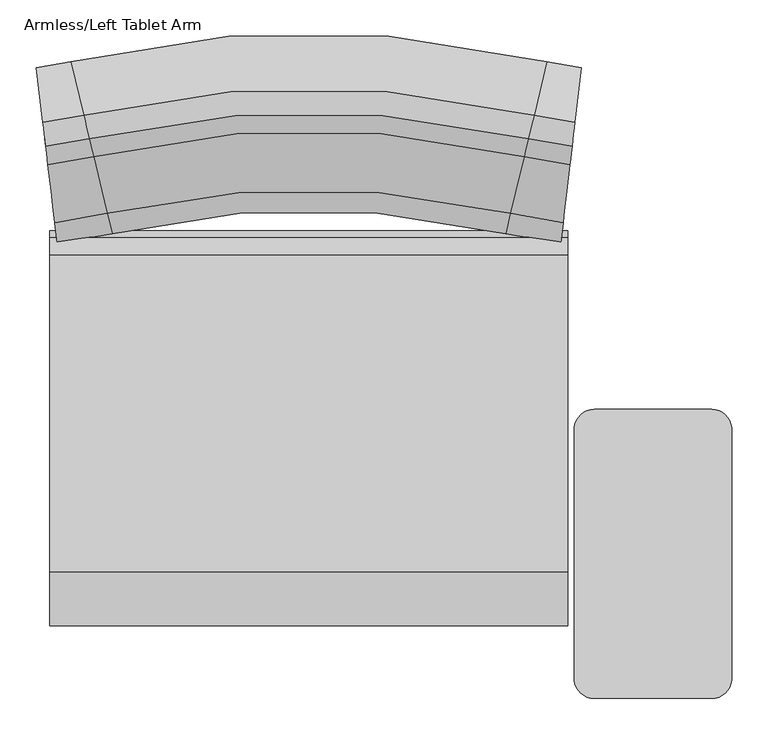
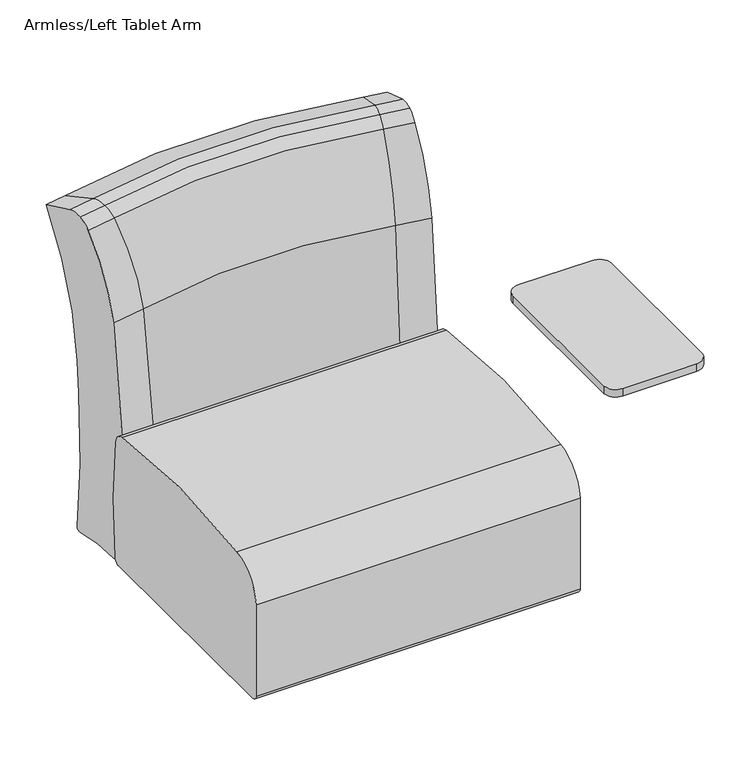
"""IFC4 building model written with IfcOpenShell, lengths in millimetres: furniture geometry, Steelcase Turnstone - Jenny - Seating - Lounge Chair : Armless/Left Tablet Arm."""

from ifc_helpers import new_model, si_unit, point, frame, frame_2d, origin, place, context, project, spatial, polyline, circle_curve, ellipse_curve, trimmed, segment, composite_curve, outline, extrude, source, transform, mapped, element, save
from ifc_brep_helpers import plane_surface, cylinder_surface, revolved_surface, advanced_brep


def armless_left_tablet_arm_3aba9abf(model_context):
    return source(origin(), model_context, "Body", "SolidModel", [
        advanced_brep(
        [(553.1970505, 297.2446472, 612.9965223), (391.8159646, 297.2446472, 612.9965223), (364.5623568, 271.9208046, 612.9965223), (364.5623568, -74.3072853, 612.9965223), (391.8159646, -99.6305466, 612.9965223), (553.1970505, -99.6305466, 612.9965223), (580.4506583, -74.3072853, 612.9965223), (580.4563138, 271.8444534, 612.9965223), (553.1970505, 297.2440659, 595.5042034), (580.4506583, 271.9208046, 595.5042034), (580.4506583, -74.3072853, 595.5042034), (553.1970505, -99.6305466, 595.5042034), (391.8159646, -99.6305466, 595.5042034), (364.5623568, -74.3072853, 595.5042034), (364.5567014, 271.8444534, 595.5042034), (391.8159646, 297.2440659, 595.5042034)],
        [
            (0, 1),
            (1, 2, circle_curve(frame((391.8159646, 269.9168846, 612.9965223), z_axis=(0.0, 0.0, 1.0), x_axis=(0.0, 1.0, 0.0)), 27.3271812)),
            (2, 3, circle_curve(frame((2718.9429546, 98.8070503, 612.9965223), z_axis=(0.0, 0.0, 1.0), x_axis=(0.0, 1.0, 0.0)), 2360.736447)),
            (3, 4, circle_curve(frame((391.8159646, -72.3033653, 612.9965223), z_axis=(0.0, 0.0, 1.0), x_axis=(0.0, 1.0, 0.0)), 27.3271812)),
            (4, 5),
            (5, 6, circle_curve(frame((553.1970505, -72.3033653, 612.9965223), z_axis=(0.0, 0.0, 1.0), x_axis=(0.0, 1.0, 0.0)), 27.3271812)),
            (6, 7, circle_curve(frame((-1773.9299394, 98.8070503, 612.9965223), z_axis=(0.0, 0.0, 1.0), x_axis=(0.0, 1.0, 0.0)), 2360.736447)),
            (7, 0, circle_curve(frame((553.1970505, 269.9168846, 612.9965223), z_axis=(0.0, 0.0, 1.0), x_axis=(0.0, 1.0, 0.0)), 27.3271812)),
            (8, 9, circle_curve(frame((553.1970505, 269.9168846, 595.5042034), z_axis=(0.0, 0.0, -1.0), x_axis=(0.0, 1.0, 0.0)), 27.3271812)),
            (9, 10, circle_curve(frame((-1773.9299394, 98.8070503, 595.5042034), z_axis=(0.0, 0.0, -1.0), x_axis=(0.0, 1.0, 0.0)), 2360.736447)),
            (10, 11, circle_curve(frame((553.1970505, -72.3033653, 595.5042034), z_axis=(0.0, 0.0, -1.0), x_axis=(0.0, 1.0, 0.0)), 27.3271812)),
            (11, 12),
            (12, 13, circle_curve(frame((391.8159646, -72.3033653, 595.5042034), z_axis=(0.0, 0.0, -1.0), x_axis=(0.0, 1.0, 0.0)), 27.3271812)),
            (13, 14, circle_curve(frame((2718.9429546, 98.8070503, 595.5042034), z_axis=(0.0, 0.0, -1.0), x_axis=(0.0, 1.0, 0.0)), 2360.736447)),
            (14, 15, circle_curve(frame((391.8159646, 269.9168846, 595.5042034), z_axis=(0.0, 0.0, -1.0), x_axis=(0.0, 1.0, 0.0)), 27.3271812)),
            (15, 8),
            (0, 8),
            (15, 1),
            (14, 2),
            (13, 3),
            (12, 4),
            (11, 5),
            (10, 6),
            (9, 7),
        ],
        [
            plane_surface(frame((391.8159646, 297.2446472, 612.9965223), z_axis=(0.0, 0.0, 1.0), x_axis=(-1.0, 0.0, 0.0))),
            plane_surface(frame((391.8159646, 297.2446472, 595.5042034), z_axis=(0.0, 0.0, -1.0), x_axis=(1.0, 0.0, 0.0))),
            plane_surface(frame((553.1970505, 297.2446472, 612.9965223), z_axis=(0.0, 1.0, 0.0), x_axis=(0.0, 0.0, -1.0))),
            cylinder_surface(frame((391.8159646, 269.9168846, 595.5042034), z_axis=(0.0, 0.0, 1.0), x_axis=(0.0, 1.0, 0.0)), 27.3271812),
            cylinder_surface(frame((2718.9429546, 98.8070503, 595.5042034), z_axis=(0.0, 0.0, 1.0), x_axis=(0.0, 1.0, 0.0)), 2360.736447),
            cylinder_surface(frame((391.8159646, -72.3033653, 595.5042034), z_axis=(0.0, 0.0, 1.0), x_axis=(0.0, 1.0, 0.0)), 27.3271812),
            plane_surface(frame((391.8159646, -99.6305466, 612.9965223), z_axis=(0.0, -1.0, 0.0), x_axis=(0.0, 0.0, -1.0))),
            cylinder_surface(frame((553.1970505, -72.3033653, 595.5042034), z_axis=(0.0, 0.0, 1.0), x_axis=(0.0, 1.0, 0.0)), 27.3271812),
            cylinder_surface(frame((-1773.9299394, 98.8070503, 595.5042034), z_axis=(0.0, 0.0, 1.0), x_axis=(0.0, 1.0, 0.0)), 2360.736447),
            cylinder_surface(frame((553.1970505, 269.9168846, 595.5042034), z_axis=(0.0, 0.0, 1.0), x_axis=(0.0, 1.0, 0.0)), 27.3271812),
        ],
        [
            (0, [[1, 2, 3, 4, 5, 6, 7, 8]]),
            (1, [[9, 10, 11, 12, 13, 14, 15, 16]]),
            (2, [[-1, 17, -16, 18]]),
            (3, [[-2, -18, -15, 19]]),
            (4, [[-3, -19, -14, 20]]),
            (5, [[-4, -20, -13, 21]]),
            (6, [[-5, -21, -12, 22]]),
            (7, [[-6, -22, -11, 23]]),
            (8, [[-7, -23, -10, 24]]),
            (9, [[-8, -24, -9, -17]]),
        ],
    ),
        extrude(outline(polyline([(373.0702751, 106.7260437), (373.0702751, 233.7264313), (486.5044904, 233.7264313), (486.5044904, 106.7260437), (373.0702751, 106.7260437)])), frame((0.0, 0.0, 592.311266), z_axis=(0.0, 0.0, 1.0), x_axis=(1.0, 0.0, 0.0)), (0.0, 0.0, 1.0), 3.1929374),
        extrude(outline(composite_curve([segment(trimmed(circle_curve(frame_2d((295.9448235, -1001.9734672)), 1409.8455938), [point((73.6948235, 390.2440215))], [point((509.3958902, 391.6201753))], False, "CARTESIAN"), True, "CONTINUOUS"), segment(trimmed(circle_curve(frame_2d((504.9855283, 362.825509)), 29.1304669), [point((509.3958902, 391.6201753))], [point((533.8942756, 366.4127691))], False, "CARTESIAN"), True, "CONTINUOUS"), segment(trimmed(circle_curve(frame_2d((-629.8512072, 222.0046519)), 1172.6709909), [point((533.8942756, 366.4127691))], [point((536.0042378, 95.7575362))], False, "CARTESIAN"), True, "CONTINUOUS"), segment(trimmed(circle_curve(frame_2d((523.173628, 97.1469259)), 12.9056171), [point((536.0042378, 95.7575362))], [point((523.4804674, 84.244957))], False, "CARTESIAN"), True, "CONTINUOUS"), segment(trimmed(circle_curve(frame_2d((320.8347088, 8605.0850806)), 8523.249481), [point((523.4804674, 84.244957))], [point((12.6556229, 87.4089088))], False, "CARTESIAN"), True, "CONTINUOUS"), segment(trimmed(circle_curve(frame_2d((13.132469, 100.5883266)), 13.1880413), [point((12.6556229, 87.4089088))], [point((0.0, 99.3789084))], False, "CARTESIAN"), True, "CONTINUOUS"), segment(trimmed(circle_curve(frame_2d((1151.5533041, 205.4297595)), 1156.4263034), [point((0.0, 99.3789084))], [point((0.0, 311.4806107))], False, "CARTESIAN"), True, "CONTINUOUS"), segment(trimmed(circle_curve(frame_2d((87.555619, 303.4172862)), 87.9261259), [point((0.0, 311.4806107))], [point((73.6948235, 390.2440215))], False, "CARTESIAN"), True, "CONTINUOUS")], self_intersect=False)), frame((-355.6, 0.0, 0.0), z_axis=(1.0, 0.0, 0.0), x_axis=(0.0, 1.0, 0.0)), (0.0, 0.0, 1.0), 711.2),
        advanced_brep(
        [(-365.286616, 691.4565759, 813.9027777), (-374.1581434, 766.5452606, 782.2939395), (-362.648411, 669.1267858, 474.5451921), (-361.9534589, 663.244705, 404.1661408), (-361.3770167, 658.3656933, 241.4197302), (-362.6146384, 668.8409343, 92.210125), (-361.3954165, 658.5214293, 82.3084573), (-349.0009614, 553.6146536, 81.9987921), (-346.7002803, 534.1416683, 97.0710008), (-349.0142051, 553.7267481, 627.8736036), (-358.4008193, 633.1751322, 797.7221008), (-361.3730638, 658.3322355, 814.4538477), (-326.9667617, 774.979302, 782.2939395), (-309.2801577, 701.4660474, 813.9027777), (-304.020535, 679.604757, 474.5451921), (-302.6350528, 673.8460877, 404.1661408), (-301.4858364, 669.0694421, 241.4197302), (-303.9532047, 679.3249029, 92.210125), (-301.5225189, 669.2219106, 82.3084573), (-276.8124763, 566.5161761, 81.9987921), (-272.2257535, 547.451752, 97.0710008), (-276.8388793, 566.6259188, 627.8736036), (-295.5523794, 644.4074023, 797.7221008), (-301.4779556, 669.0366863, 814.4538477), (326.9667617, 774.979302, 782.2939395), (309.2801577, 701.4660474, 813.9027777), (304.020535, 679.604757, 474.5451921), (302.6350528, 673.8460877, 404.1661408), (301.4858364, 669.0694421, 241.4197302), (303.9532047, 679.3249029, 92.210125), (301.5225189, 669.2219106, 82.3084573), (276.8124763, 566.5161761, 81.9987921), (272.2257535, 547.451752, 97.0710008), (276.8388793, 566.6259188, 627.8736036), (295.5523794, 644.4074023, 797.7221008), (301.4779556, 669.0366863, 814.4538477), (365.286616, 691.4565759, 813.9027777), (361.3730638, 658.3322355, 814.4538477), (358.4008193, 633.1751322, 797.7221008), (349.0142051, 553.7267481, 627.8736036), (346.7002803, 534.1416683, 97.0710008), (349.0009614, 553.6146536, 81.9987921), (361.3954165, 658.5214293, 82.3084573), (362.6146384, 668.8409343, 92.210125), (361.3770167, 658.3656933, 241.4197302), (361.9534589, 663.244705, 404.1661408), (362.648411, 669.1267858, 474.5451921), (374.1581434, 766.5452606, 782.2939395)],
        [
            (0, 1, circle_curve(frame((-341.1261096, 486.9618391, 215.0940543), z_axis=(-0.9930928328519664, -0.11733126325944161, 0.0), x_axis=(-0.11733126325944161, 0.9930928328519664, 0.0)), 633.2248531)),
            (1, 2, circle_curve(frame((-441.9489126, 1340.3269208, 428.618251), z_axis=(0.9930928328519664, 0.11733126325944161, 0.0), x_axis=(-0.11733126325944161, 0.9930928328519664, 0.0)), 677.4270991)),
            (2, 3, circle_curve(frame((-106.0716484, -1502.5411649, 623.1418041), z_axis=(-0.9930928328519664, -0.11733126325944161, 0.0), x_axis=(-0.11733126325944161, 0.9930928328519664, 0.0)), 2191.8152925)),
            (3, 4, circle_curve(frame((-498.0432857, 1815.1101831, 287.7047166), z_axis=(0.9930928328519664, 0.11733126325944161, 0.0), x_axis=(-0.11733126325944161, 0.9930928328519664, 0.0)), 1165.7091335)),
            (4, 5, circle_curve(frame((-645.5581159, 3063.6769889, 337.6638027), z_axis=(0.9930928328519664, 0.11733126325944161, 0.0), x_axis=(-0.11733126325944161, 0.9930928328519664, 0.0)), 2423.9521958)),
            (5, 6, circle_curve(frame((-361.5543466, 659.8666153, 91.290321), z_axis=(-0.9930928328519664, -0.11733126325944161, 0.0), x_axis=(-0.11733126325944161, 0.9930928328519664, 0.0)), 9.0834278)),
            (6, 7, circle_curve(frame((-355.3163018, 607.0677497, -261.2499371), z_axis=(0.9930928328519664, 0.11733126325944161, 0.0), x_axis=(-0.11733126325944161, 0.9930928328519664, 0.0)), 347.443243)),
            (7, 8, circle_curve(frame((-348.6908883, 550.9901919, 98.8517567), z_axis=(-0.9930928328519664, -0.11733126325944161, 0.0), x_axis=(-0.11733126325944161, 0.9930928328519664, 0.0)), 17.0589085)),
            (8, 9, circle_curve(frame((-566.1189152, 2391.3029031, 293.3582769), z_axis=(-0.9930928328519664, -0.11733126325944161, 0.0), x_axis=(-0.11733126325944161, 0.9930928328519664, 0.0)), 1880.3513194)),
            (9, 10, circle_curve(frame((-390.9633635, 908.7847898, 563.2382651), z_axis=(-0.9930928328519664, -0.11733126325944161, 0.0), x_axis=(-0.11733126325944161, 0.9930928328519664, 0.0)), 363.3230957)),
            (10, 11, circle_curve(frame((-363.2305214, 674.0537729, 762.9432742), z_axis=(-0.9930928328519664, -0.11733126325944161, 0.0), x_axis=(-0.11733126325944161, 0.9930928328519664, 0.0)), 53.8883667)),
            (11, 0, circle_curve(frame((-363.2305214, 674.0537729, 762.9432742), z_axis=(-0.9930928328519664, -0.11733126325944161, 0.0), x_axis=(-0.11733126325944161, 0.9930928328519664, 0.0)), 53.8883667)),
            (12, 1, circle_curve(frame((-421.6517332, 1168.5314176, 782.2939395), z_axis=(0.0, 0.0, -1.0), x_axis=(0.1173312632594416, -0.9930928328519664, 0.0)), 404.7820543)),
            (0, 13, circle_curve(frame((-421.6517332, 1168.5314176, 813.9027777), z_axis=(0.0, 0.0, 1.0), x_axis=(0.1173312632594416, -0.9930928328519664, 0.0)), 480.3929964)),
            (13, 12, circle_curve(frame((-261.1128813, 501.2617994, 215.0940543), z_axis=(-0.9722568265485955, -0.23391593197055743, 0.0), x_axis=(-0.23391593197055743, 0.9722568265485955, 0.0)), 633.2248531)),
            (14, 2, circle_curve(frame((-421.6517332, 1168.5314176, 474.5451921), z_axis=(0.0, 0.0, -1.0), x_axis=(0.1173312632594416, -0.9930928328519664, 0.0)), 502.8780948)),
            (12, 14, circle_curve(frame((-462.1169383, 1336.7224922, 428.618251), z_axis=(0.9722568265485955, 0.23391593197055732, 0.0), x_axis=(-0.23391593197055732, 0.9722568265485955, 0.0)), 677.4270991)),
            (15, 3, circle_curve(frame((-421.6517332, 1168.5314176, 404.1661408), z_axis=(0.0, 0.0, -1.0), x_axis=(0.1173312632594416, -0.9930928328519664, 0.0)), 508.8010867)),
            (14, 15, circle_curve(frame((207.500358, -1446.4995912, 623.1418041), z_axis=(-0.9722568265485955, -0.2339159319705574, 0.0), x_axis=(-0.2339159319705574, 0.9722568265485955, 0.0)), 2191.8152925)),
            (16, 4, circle_curve(frame((-421.6517332, 1168.5314176, 241.4197302), z_axis=(0.0, 0.0, -1.0), x_axis=(0.1173312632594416, -0.9930928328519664, 0.0)), 513.714033)),
            (15, 16, circle_curve(frame((-573.9487486, 1801.5443625, 287.7047166), z_axis=(0.9722568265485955, 0.23391593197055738, 0.0), x_axis=(-0.23391593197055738, 0.9722568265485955, 0.0)), 1165.7091335)),
            (17, 5, circle_curve(frame((-421.6517332, 1168.5314176, 92.210125), z_axis=(0.0, 0.0, -1.0), x_axis=(0.1173312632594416, -0.9930928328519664, 0.0)), 503.1659344)),
            (16, 17, circle_curve(frame((-868.0397524, 3023.9150817, 337.6638027), z_axis=(0.9722568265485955, 0.2339159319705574, 0.0), x_axis=(-0.2339159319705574, 0.9722568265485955, 0.0)), 2423.9521958)),
            (18, 6, circle_curve(frame((-421.6517332, 1168.5314176, 82.3084573), z_axis=(0.0, 0.0, -1.0), x_axis=(0.1173312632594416, -0.9930928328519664, 0.0)), 513.5572138)),
            (17, 18, circle_curve(frame((-301.8393678, 670.5388734, 91.290321), z_axis=(-0.9722568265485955, -0.23391593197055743, 0.0), x_axis=(-0.23391593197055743, 0.9722568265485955, 0.0)), 9.0834278)),
            (19, 7, circle_curve(frame((-421.6517332, 1168.5314176, 81.9987921), z_axis=(0.0, 0.0, -1.0), x_axis=(0.1173312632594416, -0.9930928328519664, 0.0)), 619.193638)),
            (18, 19, circle_curve(frame((-289.4029717, 618.8477768, -261.2499371), z_axis=(0.9722568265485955, 0.2339159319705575, 0.0), x_axis=(-0.2339159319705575, 0.9722568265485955, 0.0)), 347.443243)),
            (20, 8, circle_curve(frame((-421.6517332, 1168.5314176, 97.0710008), z_axis=(0.0, 0.0, -1.0), x_axis=(0.1173312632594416, -0.9930928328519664, 0.0)), 638.8020619)),
            (19, 20, circle_curve(frame((-276.194303, 563.9467781, 98.8517567), z_axis=(-0.9722568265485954, -0.23391593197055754, 0.0), x_axis=(-0.23391593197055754, 0.9722568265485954, 0.0)), 17.0589085)),
            (21, 9, circle_curve(frame((-421.6517332, 1168.5314176, 627.8736036), z_axis=(0.0, 0.0, -1.0), x_axis=(0.1173312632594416, -0.9930928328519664, 0.0)), 619.0807637)),
            (20, 21, circle_curve(frame((-709.6668332, 2365.6480262, 293.3582769), z_axis=(-0.9722568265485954, -0.23391593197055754, 0.0), x_axis=(-0.23391593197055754, 0.9722568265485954, 0.0)), 1880.3513194)),
            (22, 10, circle_curve(frame((-421.6517332, 1168.5314176, 797.7221008), z_axis=(0.0, 0.0, -1.0), x_axis=(0.1173312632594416, -0.9930928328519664, 0.0)), 539.0797997)),
            (21, 22, circle_curve(frame((-360.4702681, 914.2345144, 563.2382651), z_axis=(-0.9722568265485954, -0.23391593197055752, 0.0), x_axis=(-0.23391593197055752, 0.9722568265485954, 0.0)), 363.3230957)),
            (23, 11, circle_curve(frame((-421.6517332, 1168.5314176, 814.4538477), z_axis=(0.0, 0.0, -1.0), x_axis=(0.1173312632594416, -0.9930928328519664, 0.0)), 513.7477235)),
            (22, 23, circle_curve(frame((-305.1810516, 684.4283713, 762.9432742), z_axis=(-0.9722568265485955, -0.2339159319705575, 0.0), x_axis=(-0.2339159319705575, 0.9722568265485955, 0.0)), 53.8883667)),
            (23, 13, circle_curve(frame((-305.1810516, 684.4283713, 762.9432742), z_axis=(-0.9722568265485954, -0.23391593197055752, 0.0), x_axis=(-0.23391593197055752, 0.9722568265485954, 0.0)), 53.8883667)),
            (24, 12, circle_curve(frame((0.0, -584.0374329, 782.2939395), z_axis=(0.0, 0.0, 1.0), x_axis=(-0.23391593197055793, 0.9722568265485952, 0.0)), 1397.7960327)),
            (13, 25, circle_curve(frame((0.0, -584.0374329, 813.9027777), z_axis=(0.0, 0.0, -1.0), x_axis=(-0.23391593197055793, 0.9722568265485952, 0.0)), 1322.1850906)),
            (25, 24, circle_curve(frame((261.1128813, 501.2617994, 215.0940543), z_axis=(-0.9722568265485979, 0.23391593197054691, 0.0), x_axis=(0.23391593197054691, 0.9722568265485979, 0.0)), 633.2248531)),
            (26, 14, circle_curve(frame((0.0, -584.0374329, 474.5451921), z_axis=(0.0, 0.0, 1.0), x_axis=(-0.23391593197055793, 0.9722568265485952, 0.0)), 1299.6999922)),
            (24, 26, circle_curve(frame((462.1169383, 1336.7224922, 428.618251), z_axis=(0.9722568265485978, -0.23391593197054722, 0.0), x_axis=(0.23391593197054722, 0.9722568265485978, 0.0)), 677.4270991)),
            (27, 15, circle_curve(frame((0.0, -584.0374329, 404.1661408), z_axis=(0.0, 0.0, 1.0), x_axis=(-0.23391593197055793, 0.9722568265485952, 0.0)), 1293.7770003)),
            (26, 27, circle_curve(frame((-207.500358, -1446.4995912, 623.1418041), z_axis=(-0.9722568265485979, 0.23391593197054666, 0.0), x_axis=(0.23391593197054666, 0.9722568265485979, 0.0)), 2191.8152925)),
            (28, 16, circle_curve(frame((0.0, -584.0374329, 241.4197302), z_axis=(0.0, 0.0, 1.0), x_axis=(-0.23391593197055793, 0.9722568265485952, 0.0)), 1288.864054)),
            (27, 28, circle_curve(frame((573.9487486, 1801.5443625, 287.7047166), z_axis=(0.9722568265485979, -0.23391593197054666, 0.0), x_axis=(0.23391593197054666, 0.9722568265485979, 0.0)), 1165.7091335)),
            (29, 17, circle_curve(frame((0.0, -584.0374329, 92.210125), z_axis=(0.0, 0.0, 1.0), x_axis=(-0.23391593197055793, 0.9722568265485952, 0.0)), 1299.4121525)),
            (28, 29, circle_curve(frame((868.0397524, 3023.9150817, 337.6638027), z_axis=(0.9722568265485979, -0.23391593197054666, 0.0), x_axis=(0.23391593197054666, 0.9722568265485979, 0.0)), 2423.9521958)),
            (30, 18, circle_curve(frame((0.0, -584.0374329, 82.3084573), z_axis=(0.0, 0.0, 1.0), x_axis=(-0.23391593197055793, 0.9722568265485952, 0.0)), 1289.0208732)),
            (29, 30, circle_curve(frame((301.8393678, 670.5388734, 91.290321), z_axis=(-0.9722568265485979, 0.23391593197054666, 0.0), x_axis=(0.23391593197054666, 0.9722568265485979, 0.0)), 9.0834278)),
            (31, 19, circle_curve(frame((0.0, -584.0374329, 81.9987921), z_axis=(0.0, 0.0, 1.0), x_axis=(-0.23391593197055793, 0.9722568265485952, 0.0)), 1183.384449)),
            (30, 31, circle_curve(frame((289.4029717, 618.8477768, -261.2499371), z_axis=(0.9722568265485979, -0.23391593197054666, 0.0), x_axis=(0.23391593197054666, 0.9722568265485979, 0.0)), 347.443243)),
            (32, 20, circle_curve(frame((0.0, -584.0374329, 97.0710008), z_axis=(0.0, 0.0, 1.0), x_axis=(-0.23391593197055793, 0.9722568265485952, 0.0)), 1163.776025)),
            (31, 32, circle_curve(frame((276.194303, 563.9467781, 98.8517567), z_axis=(-0.9722568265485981, 0.23391593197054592, 0.0), x_axis=(0.23391593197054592, 0.9722568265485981, 0.0)), 17.0589085)),
            (33, 21, circle_curve(frame((0.0, -584.0374329, 627.8736036), z_axis=(0.0, 0.0, 1.0), x_axis=(-0.23391593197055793, 0.9722568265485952, 0.0)), 1183.4973232)),
            (32, 33, circle_curve(frame((709.6668332, 2365.6480262, 293.3582769), z_axis=(-0.9722568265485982, 0.23391593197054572, 0.0), x_axis=(0.23391593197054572, 0.9722568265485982, 0.0)), 1880.3513194)),
            (34, 22, circle_curve(frame((0.0, -584.0374329, 797.7221008), z_axis=(0.0, 0.0, 1.0), x_axis=(-0.23391593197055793, 0.9722568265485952, 0.0)), 1263.4982873)),
            (33, 34, circle_curve(frame((360.4702681, 914.2345144, 563.2382651), z_axis=(-0.9722568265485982, 0.2339159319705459, 0.0), x_axis=(0.2339159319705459, 0.9722568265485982, 0.0)), 363.3230957)),
            (35, 23, circle_curve(frame((0.0, -584.0374329, 814.4538477), z_axis=(0.0, 0.0, 1.0), x_axis=(-0.23391593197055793, 0.9722568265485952, 0.0)), 1288.8303635)),
            (34, 35, circle_curve(frame((305.1810516, 684.4283713, 762.9432742), z_axis=(-0.972256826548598, 0.23391593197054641, 0.0), x_axis=(0.23391593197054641, 0.972256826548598, 0.0)), 53.8883667)),
            (35, 25, circle_curve(frame((305.1810516, 684.4283713, 762.9432742), z_axis=(-0.972256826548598, 0.23391593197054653, 0.0), x_axis=(0.23391593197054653, 0.972256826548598, 0.0)), 53.8883667)),
            (36, 37, circle_curve(frame((363.2305214, 674.0537729, 762.9432742), z_axis=(0.9930928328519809, -0.11733126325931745, 0.0), x_axis=(0.11733126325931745, 0.9930928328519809, 0.0)), 53.8883667)),
            (37, 38, circle_curve(frame((363.2305214, 674.0537729, 762.9432742), z_axis=(0.9930928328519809, -0.11733126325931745, 0.0), x_axis=(0.11733126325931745, 0.9930928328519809, 0.0)), 53.8883667)),
            (38, 39, circle_curve(frame((390.9633635, 908.7847898, 563.2382651), z_axis=(0.9930928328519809, -0.11733126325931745, 0.0), x_axis=(0.11733126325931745, 0.9930928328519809, 0.0)), 363.3230957)),
            (39, 40, circle_curve(frame((566.1189152, 2391.3029031, 293.3582769), z_axis=(0.9930928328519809, -0.11733126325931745, 0.0), x_axis=(0.11733126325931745, 0.9930928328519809, 0.0)), 1880.3513194)),
            (40, 41, circle_curve(frame((348.6908883, 550.9901919, 98.8517567), z_axis=(0.9930928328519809, -0.11733126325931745, 0.0), x_axis=(0.11733126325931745, 0.9930928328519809, 0.0)), 17.0589085)),
            (41, 42, circle_curve(frame((355.3163018, 607.0677497, -261.2499371), z_axis=(-0.9930928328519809, 0.11733126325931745, 0.0), x_axis=(0.11733126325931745, 0.9930928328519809, 0.0)), 347.443243)),
            (42, 43, circle_curve(frame((361.5543466, 659.8666153, 91.290321), z_axis=(0.9930928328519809, -0.11733126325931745, 0.0), x_axis=(0.11733126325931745, 0.9930928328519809, 0.0)), 9.0834278)),
            (43, 44, circle_curve(frame((645.5581159, 3063.6769889, 337.6638027), z_axis=(-0.9930928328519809, 0.11733126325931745, 0.0), x_axis=(0.11733126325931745, 0.9930928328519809, 0.0)), 2423.9521958)),
            (44, 45, circle_curve(frame((498.0432857, 1815.1101831, 287.7047166), z_axis=(-0.9930928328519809, 0.11733126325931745, 0.0), x_axis=(0.11733126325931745, 0.9930928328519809, 0.0)), 1165.7091335)),
            (45, 46, circle_curve(frame((106.0716484, -1502.5411649, 623.1418041), z_axis=(0.9930928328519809, -0.11733126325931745, 0.0), x_axis=(0.11733126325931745, 0.9930928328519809, 0.0)), 2191.8152925)),
            (46, 47, circle_curve(frame((441.9489126, 1340.3269208, 428.618251), z_axis=(-0.9930928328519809, 0.11733126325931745, 0.0), x_axis=(0.11733126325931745, 0.9930928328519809, 0.0)), 677.4270991)),
            (47, 36, circle_curve(frame((341.1261096, 486.9618391, 215.0940543), z_axis=(0.9930928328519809, -0.11733126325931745, 0.0), x_axis=(0.11733126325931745, 0.9930928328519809, 0.0)), 633.2248531)),
            (47, 24, circle_curve(frame((421.6517332, 1168.5314176, 782.2939395), z_axis=(0.0, 0.0, -1.0), x_axis=(-0.2339159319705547, -0.972256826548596, 0.0)), 404.7820543)),
            (25, 36, circle_curve(frame((421.6517332, 1168.5314176, 813.9027777), z_axis=(0.0, 0.0, 1.0), x_axis=(-0.2339159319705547, -0.972256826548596, 0.0)), 480.3929964)),
            (46, 26, circle_curve(frame((421.6517332, 1168.5314176, 474.5451921), z_axis=(0.0, 0.0, -1.0), x_axis=(-0.2339159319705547, -0.972256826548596, 0.0)), 502.8780948)),
            (45, 27, circle_curve(frame((421.6517332, 1168.5314176, 404.1661408), z_axis=(0.0, 0.0, -1.0), x_axis=(-0.2339159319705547, -0.972256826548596, 0.0)), 508.8010867)),
            (44, 28, circle_curve(frame((421.6517332, 1168.5314176, 241.4197302), z_axis=(0.0, 0.0, -1.0), x_axis=(-0.2339159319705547, -0.972256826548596, 0.0)), 513.714033)),
            (43, 29, circle_curve(frame((421.6517332, 1168.5314176, 92.210125), z_axis=(0.0, 0.0, -1.0), x_axis=(-0.2339159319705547, -0.972256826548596, 0.0)), 503.1659344)),
            (42, 30, circle_curve(frame((421.6517332, 1168.5314176, 82.3084573), z_axis=(0.0, 0.0, -1.0), x_axis=(-0.2339159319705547, -0.972256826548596, 0.0)), 513.5572138)),
            (41, 31, circle_curve(frame((421.6517332, 1168.5314176, 81.9987921), z_axis=(0.0, 0.0, -1.0), x_axis=(-0.2339159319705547, -0.972256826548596, 0.0)), 619.193638)),
            (40, 32, circle_curve(frame((421.6517332, 1168.5314176, 97.0710008), z_axis=(0.0, 0.0, -1.0), x_axis=(-0.2339159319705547, -0.972256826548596, 0.0)), 638.8020619)),
            (39, 33, circle_curve(frame((421.6517332, 1168.5314176, 627.8736036), z_axis=(0.0, 0.0, -1.0), x_axis=(-0.2339159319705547, -0.972256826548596, 0.0)), 619.0807637)),
            (38, 34, circle_curve(frame((421.6517332, 1168.5314176, 797.7221008), z_axis=(0.0, 0.0, -1.0), x_axis=(-0.2339159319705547, -0.972256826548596, 0.0)), 539.0797997)),
            (37, 35, circle_curve(frame((421.6517332, 1168.5314176, 814.4538477), z_axis=(0.0, 0.0, -1.0), x_axis=(-0.2339159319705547, -0.972256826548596, 0.0)), 513.7477235)),
        ],
        [
            plane_surface(frame((-355.6, 609.4689735, 0.0), z_axis=(-0.9930928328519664, -0.11733126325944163, 0.0), x_axis=(0.0, 0.0, 1.0))),
            revolved_surface(trimmed(ellipse_curve(frame((-341.1261096, 486.9618391, 215.0940543), z_axis=(-0.9930928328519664, -0.11733126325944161, 0.0), x_axis=(-0.11733126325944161, 0.9930928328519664, 0.0)), 633.2248531, 633.2248531), [point((-365.286616, 691.4565759, 813.9027777))], [point((-374.1581434, 766.5452606, 782.2939395))], True, "CARTESIAN"), (-421.6517332, 1168.5314176, 0.0), (0.0, 0.0, 1.0)),
            revolved_surface(trimmed(ellipse_curve(frame((-441.9489126, 1340.3269208, 428.618251), z_axis=(0.9930928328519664, 0.11733126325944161, 0.0), x_axis=(-0.11733126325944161, 0.9930928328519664, 0.0)), 677.4270991, 677.4270991), [point((-374.1581434, 766.5452606, 782.2939395))], [point((-362.648411, 669.1267858, 474.5451921))], True, "CARTESIAN"), (-421.6517332, 1168.5314176, 0.0), (0.0, 0.0, 1.0)),
            revolved_surface(trimmed(ellipse_curve(frame((-106.0716484, -1502.5411649, 623.1418041), z_axis=(-0.9930928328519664, -0.11733126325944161, 0.0), x_axis=(-0.11733126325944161, 0.9930928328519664, 0.0)), 2191.8152925, 2191.8152925), [point((-362.648411, 669.1267858, 474.5451921))], [point((-361.9534589, 663.244705, 404.1661408))], True, "CARTESIAN"), (-421.6517332, 1168.5314176, 0.0), (0.0, 0.0, 1.0)),
            revolved_surface(trimmed(ellipse_curve(frame((-498.0432857, 1815.1101831, 287.7047166), z_axis=(0.9930928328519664, 0.11733126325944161, 0.0), x_axis=(-0.11733126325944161, 0.9930928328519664, 0.0)), 1165.7091335, 1165.7091335), [point((-361.9534589, 663.244705, 404.1661408))], [point((-361.3770167, 658.3656933, 241.4197302))], True, "CARTESIAN"), (-421.6517332, 1168.5314176, 0.0), (0.0, 0.0, 1.0)),
            revolved_surface(trimmed(ellipse_curve(frame((-645.5581159, 3063.6769889, 337.6638027), z_axis=(0.9930928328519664, 0.11733126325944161, 0.0), x_axis=(-0.11733126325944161, 0.9930928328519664, 0.0)), 2423.9521958, 2423.9521958), [point((-361.3770167, 658.3656933, 241.4197302))], [point((-362.6146384, 668.8409343, 92.210125))], True, "CARTESIAN"), (-421.6517332, 1168.5314176, 0.0), (0.0, 0.0, 1.0)),
            revolved_surface(trimmed(ellipse_curve(frame((-361.5543466, 659.8666153, 91.290321), z_axis=(-0.9930928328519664, -0.11733126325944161, 0.0), x_axis=(-0.11733126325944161, 0.9930928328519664, 0.0)), 9.0834278, 9.0834278), [point((-362.6146384, 668.8409343, 92.210125))], [point((-361.3954165, 658.5214293, 82.3084573))], True, "CARTESIAN"), (-421.6517332, 1168.5314176, 0.0), (0.0, 0.0, 1.0)),
            revolved_surface(trimmed(ellipse_curve(frame((-355.3163018, 607.0677497, -261.2499371), z_axis=(0.9930928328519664, 0.11733126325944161, 0.0), x_axis=(-0.11733126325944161, 0.9930928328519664, 0.0)), 347.443243, 347.443243), [point((-361.3954165, 658.5214293, 82.3084573))], [point((-349.0009614, 553.6146536, 81.9987921))], True, "CARTESIAN"), (-421.6517332, 1168.5314176, 0.0), (0.0, 0.0, 1.0)),
            revolved_surface(trimmed(ellipse_curve(frame((-348.6908883, 550.9901919, 98.8517567), z_axis=(-0.9930928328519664, -0.11733126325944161, 0.0), x_axis=(-0.11733126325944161, 0.9930928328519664, 0.0)), 17.0589085, 17.0589085), [point((-349.0009614, 553.6146536, 81.9987921))], [point((-346.7002803, 534.1416683, 97.0710008))], True, "CARTESIAN"), (-421.6517332, 1168.5314176, 0.0), (0.0, 0.0, 1.0)),
            revolved_surface(trimmed(ellipse_curve(frame((-566.1189152, 2391.3029031, 293.3582769), z_axis=(-0.9930928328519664, -0.11733126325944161, 0.0), x_axis=(-0.11733126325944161, 0.9930928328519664, 0.0)), 1880.3513194, 1880.3513194), [point((-346.7002803, 534.1416683, 97.0710008))], [point((-349.0142051, 553.7267481, 627.8736036))], True, "CARTESIAN"), (-421.6517332, 1168.5314176, 0.0), (0.0, 0.0, 1.0)),
            revolved_surface(trimmed(ellipse_curve(frame((-390.9633635, 908.7847898, 563.2382651), z_axis=(-0.9930928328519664, -0.11733126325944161, 0.0), x_axis=(-0.11733126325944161, 0.9930928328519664, 0.0)), 363.3230957, 363.3230957), [point((-349.0142051, 553.7267481, 627.8736036))], [point((-358.4008193, 633.1751322, 797.7221008))], True, "CARTESIAN"), (-421.6517332, 1168.5314176, 0.0), (0.0, 0.0, 1.0)),
            revolved_surface(trimmed(ellipse_curve(frame((-363.2305214, 674.0537729, 762.9432742), z_axis=(-0.9930928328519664, -0.11733126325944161, 0.0), x_axis=(-0.11733126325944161, 0.9930928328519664, 0.0)), 53.8883667, 53.8883667), [point((-358.4008193, 633.1751322, 797.7221008))], [point((-361.3730638, 658.3322355, 814.4538477))], True, "CARTESIAN"), (-421.6517332, 1168.5314176, 0.0), (0.0, 0.0, 1.0)),
            revolved_surface(trimmed(ellipse_curve(frame((-363.2305214, 674.0537729, 762.9432742), z_axis=(-0.9930928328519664, -0.11733126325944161, 0.0), x_axis=(-0.11733126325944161, 0.9930928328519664, 0.0)), 53.8883667, 53.8883667), [point((-361.3730638, 658.3322355, 814.4538477))], [point((-365.286616, 691.4565759, 813.9027777))], True, "CARTESIAN"), (-421.6517332, 1168.5314176, 0.0), (0.0, 0.0, 1.0)),
            revolved_surface(trimmed(ellipse_curve(frame((-261.1128813, 501.2617994, 215.0940543), z_axis=(-0.9722568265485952, -0.23391593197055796, 0.0), x_axis=(-0.23391593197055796, 0.9722568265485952, 0.0)), 633.2248531, 633.2248531), [point((-309.2801577, 701.4660474, 813.9027777))], [point((-326.9667617, 774.979302, 782.2939395))], True, "CARTESIAN"), (0.0, -584.0374329, 0.0), (0.0, 0.0, -1.0)),
            revolved_surface(trimmed(ellipse_curve(frame((-462.1169383, 1336.7224922, 428.618251), z_axis=(0.9722568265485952, 0.23391593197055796, 0.0), x_axis=(-0.23391593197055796, 0.9722568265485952, 0.0)), 677.4270991, 677.4270991), [point((-326.9667617, 774.979302, 782.2939395))], [point((-304.020535, 679.604757, 474.5451921))], True, "CARTESIAN"), (0.0, -584.0374329, 0.0), (0.0, 0.0, -1.0)),
            revolved_surface(trimmed(ellipse_curve(frame((207.500358, -1446.4995912, 623.1418041), z_axis=(-0.9722568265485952, -0.23391593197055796, 0.0), x_axis=(-0.23391593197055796, 0.9722568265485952, 0.0)), 2191.8152925, 2191.8152925), [point((-304.020535, 679.604757, 474.5451921))], [point((-302.6350528, 673.8460877, 404.1661408))], True, "CARTESIAN"), (0.0, -584.0374329, 0.0), (0.0, 0.0, -1.0)),
            revolved_surface(trimmed(ellipse_curve(frame((-573.9487486, 1801.5443625, 287.7047166), z_axis=(0.9722568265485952, 0.23391593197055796, 0.0), x_axis=(-0.23391593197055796, 0.9722568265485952, 0.0)), 1165.7091335, 1165.7091335), [point((-302.6350528, 673.8460877, 404.1661408))], [point((-301.4858364, 669.0694421, 241.4197302))], True, "CARTESIAN"), (0.0, -584.0374329, 0.0), (0.0, 0.0, -1.0)),
            revolved_surface(trimmed(ellipse_curve(frame((-868.0397524, 3023.9150817, 337.6638027), z_axis=(0.9722568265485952, 0.23391593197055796, 0.0), x_axis=(-0.23391593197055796, 0.9722568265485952, 0.0)), 2423.9521958, 2423.9521958), [point((-301.4858364, 669.0694421, 241.4197302))], [point((-303.9532047, 679.3249029, 92.210125))], True, "CARTESIAN"), (0.0, -584.0374329, 0.0), (0.0, 0.0, -1.0)),
            revolved_surface(trimmed(ellipse_curve(frame((-301.8393678, 670.5388734, 91.290321), z_axis=(-0.9722568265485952, -0.23391593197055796, 0.0), x_axis=(-0.23391593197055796, 0.9722568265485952, 0.0)), 9.0834278, 9.0834278), [point((-303.9532047, 679.3249029, 92.210125))], [point((-301.5225189, 669.2219106, 82.3084573))], True, "CARTESIAN"), (0.0, -584.0374329, 0.0), (0.0, 0.0, -1.0)),
            revolved_surface(trimmed(ellipse_curve(frame((-289.4029717, 618.8477768, -261.2499371), z_axis=(0.9722568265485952, 0.23391593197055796, 0.0), x_axis=(-0.23391593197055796, 0.9722568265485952, 0.0)), 347.443243, 347.443243), [point((-301.5225189, 669.2219106, 82.3084573))], [point((-276.8124763, 566.5161761, 81.9987921))], True, "CARTESIAN"), (0.0, -584.0374329, 0.0), (0.0, 0.0, -1.0)),
            revolved_surface(trimmed(ellipse_curve(frame((-276.194303, 563.9467781, 98.8517567), z_axis=(-0.9722568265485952, -0.23391593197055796, 0.0), x_axis=(-0.23391593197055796, 0.9722568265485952, 0.0)), 17.0589085, 17.0589085), [point((-276.8124763, 566.5161761, 81.9987921))], [point((-272.2257535, 547.451752, 97.0710008))], True, "CARTESIAN"), (0.0, -584.0374329, 0.0), (0.0, 0.0, -1.0)),
            revolved_surface(trimmed(ellipse_curve(frame((-709.6668332, 2365.6480262, 293.3582769), z_axis=(-0.9722568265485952, -0.23391593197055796, 0.0), x_axis=(-0.23391593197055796, 0.9722568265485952, 0.0)), 1880.3513194, 1880.3513194), [point((-272.2257535, 547.451752, 97.0710008))], [point((-276.8388793, 566.6259188, 627.8736036))], True, "CARTESIAN"), (0.0, -584.0374329, 0.0), (0.0, 0.0, -1.0)),
            revolved_surface(trimmed(ellipse_curve(frame((-360.4702681, 914.2345144, 563.2382651), z_axis=(-0.9722568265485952, -0.23391593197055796, 0.0), x_axis=(-0.23391593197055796, 0.9722568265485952, 0.0)), 363.3230957, 363.3230957), [point((-276.8388793, 566.6259188, 627.8736036))], [point((-295.5523794, 644.4074023, 797.7221008))], True, "CARTESIAN"), (0.0, -584.0374329, 0.0), (0.0, 0.0, -1.0)),
            revolved_surface(trimmed(ellipse_curve(frame((-305.1810516, 684.4283713, 762.9432742), z_axis=(-0.9722568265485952, -0.23391593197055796, 0.0), x_axis=(-0.23391593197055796, 0.9722568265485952, 0.0)), 53.8883667, 53.8883667), [point((-295.5523794, 644.4074023, 797.7221008))], [point((-301.4779556, 669.0366863, 814.4538477))], True, "CARTESIAN"), (0.0, -584.0374329, 0.0), (0.0, 0.0, -1.0)),
            revolved_surface(trimmed(ellipse_curve(frame((-305.1810516, 684.4283713, 762.9432742), z_axis=(-0.9722568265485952, -0.23391593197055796, 0.0), x_axis=(-0.23391593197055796, 0.9722568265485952, 0.0)), 53.8883667, 53.8883667), [point((-301.4779556, 669.0366863, 814.4538477))], [point((-309.2801577, 701.4660474, 813.9027777))], True, "CARTESIAN"), (0.0, -584.0374329, 0.0), (0.0, 0.0, -1.0)),
            plane_surface(frame((355.6, 609.4689735, 0.0), z_axis=(0.993092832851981, -0.11733126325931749, 0.0), x_axis=(0.0, 0.0, 1.0))),
            revolved_surface(trimmed(ellipse_curve(frame((261.1128813, 501.2617994, 215.0940543), z_axis=(-0.972256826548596, 0.23391593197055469, 0.0), x_axis=(0.23391593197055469, 0.972256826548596, 0.0)), 633.2248531, 633.2248531), [point((309.2801577, 701.4660474, 813.9027777))], [point((326.9667617, 774.979302, 782.2939395))], True, "CARTESIAN"), (421.6517332, 1168.5314176, 0.0), (0.0, 0.0, 1.0)),
            revolved_surface(trimmed(ellipse_curve(frame((462.1169383, 1336.7224922, 428.618251), z_axis=(0.972256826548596, -0.23391593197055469, 0.0), x_axis=(0.23391593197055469, 0.972256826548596, 0.0)), 677.4270991, 677.4270991), [point((326.9667617, 774.979302, 782.2939395))], [point((304.020535, 679.604757, 474.5451921))], True, "CARTESIAN"), (421.6517332, 1168.5314176, 0.0), (0.0, 0.0, 1.0)),
            revolved_surface(trimmed(ellipse_curve(frame((-207.500358, -1446.4995912, 623.1418041), z_axis=(-0.972256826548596, 0.23391593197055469, 0.0), x_axis=(0.23391593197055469, 0.972256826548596, 0.0)), 2191.8152925, 2191.8152925), [point((304.020535, 679.604757, 474.5451921))], [point((302.6350528, 673.8460877, 404.1661408))], True, "CARTESIAN"), (421.6517332, 1168.5314176, 0.0), (0.0, 0.0, 1.0)),
            revolved_surface(trimmed(ellipse_curve(frame((573.9487486, 1801.5443625, 287.7047166), z_axis=(0.972256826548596, -0.23391593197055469, 0.0), x_axis=(0.23391593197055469, 0.972256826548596, 0.0)), 1165.7091335, 1165.7091335), [point((302.6350528, 673.8460877, 404.1661408))], [point((301.4858364, 669.0694421, 241.4197302))], True, "CARTESIAN"), (421.6517332, 1168.5314176, 0.0), (0.0, 0.0, 1.0)),
            revolved_surface(trimmed(ellipse_curve(frame((868.0397524, 3023.9150817, 337.6638027), z_axis=(0.972256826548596, -0.23391593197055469, 0.0), x_axis=(0.23391593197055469, 0.972256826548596, 0.0)), 2423.9521958, 2423.9521958), [point((301.4858364, 669.0694421, 241.4197302))], [point((303.9532047, 679.3249029, 92.210125))], True, "CARTESIAN"), (421.6517332, 1168.5314176, 0.0), (0.0, 0.0, 1.0)),
            revolved_surface(trimmed(ellipse_curve(frame((301.8393678, 670.5388734, 91.290321), z_axis=(-0.972256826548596, 0.23391593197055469, 0.0), x_axis=(0.23391593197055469, 0.972256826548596, 0.0)), 9.0834278, 9.0834278), [point((303.9532047, 679.3249029, 92.210125))], [point((301.5225189, 669.2219106, 82.3084573))], True, "CARTESIAN"), (421.6517332, 1168.5314176, 0.0), (0.0, 0.0, 1.0)),
            revolved_surface(trimmed(ellipse_curve(frame((289.4029717, 618.8477768, -261.2499371), z_axis=(0.972256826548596, -0.23391593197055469, 0.0), x_axis=(0.23391593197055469, 0.972256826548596, 0.0)), 347.443243, 347.443243), [point((301.5225189, 669.2219106, 82.3084573))], [point((276.8124763, 566.5161761, 81.9987921))], True, "CARTESIAN"), (421.6517332, 1168.5314176, 0.0), (0.0, 0.0, 1.0)),
            revolved_surface(trimmed(ellipse_curve(frame((276.194303, 563.9467781, 98.8517567), z_axis=(-0.972256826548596, 0.23391593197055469, 0.0), x_axis=(0.23391593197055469, 0.972256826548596, 0.0)), 17.0589085, 17.0589085), [point((276.8124763, 566.5161761, 81.9987921))], [point((272.2257535, 547.451752, 97.0710008))], True, "CARTESIAN"), (421.6517332, 1168.5314176, 0.0), (0.0, 0.0, 1.0)),
            revolved_surface(trimmed(ellipse_curve(frame((709.6668332, 2365.6480262, 293.3582769), z_axis=(-0.972256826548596, 0.23391593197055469, 0.0), x_axis=(0.23391593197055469, 0.972256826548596, 0.0)), 1880.3513194, 1880.3513194), [point((272.2257535, 547.451752, 97.0710008))], [point((276.8388793, 566.6259188, 627.8736036))], True, "CARTESIAN"), (421.6517332, 1168.5314176, 0.0), (0.0, 0.0, 1.0)),
            revolved_surface(trimmed(ellipse_curve(frame((360.4702681, 914.2345144, 563.2382651), z_axis=(-0.972256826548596, 0.23391593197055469, 0.0), x_axis=(0.23391593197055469, 0.972256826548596, 0.0)), 363.3230957, 363.3230957), [point((276.8388793, 566.6259188, 627.8736036))], [point((295.5523794, 644.4074023, 797.7221008))], True, "CARTESIAN"), (421.6517332, 1168.5314176, 0.0), (0.0, 0.0, 1.0)),
            revolved_surface(trimmed(ellipse_curve(frame((305.1810516, 684.4283713, 762.9432742), z_axis=(-0.972256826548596, 0.23391593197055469, 0.0), x_axis=(0.23391593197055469, 0.972256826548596, 0.0)), 53.8883667, 53.8883667), [point((295.5523794, 644.4074023, 797.7221008))], [point((301.4779556, 669.0366863, 814.4538477))], True, "CARTESIAN"), (421.6517332, 1168.5314176, 0.0), (0.0, 0.0, 1.0)),
            revolved_surface(trimmed(ellipse_curve(frame((305.1810516, 684.4283713, 762.9432742), z_axis=(-0.972256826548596, 0.23391593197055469, 0.0), x_axis=(0.23391593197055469, 0.972256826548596, 0.0)), 53.8883667, 53.8883667), [point((301.4779556, 669.0366863, 814.4538477))], [point((309.2801577, 701.4660474, 813.9027777))], True, "CARTESIAN"), (421.6517332, 1168.5314176, 0.0), (0.0, 0.0, 1.0)),
        ],
        [
            (0, [[1, 2, 3, 4, 5, 6, 7, 8, 9, 10, 11, 12]]),
            (1, [[13, -1, 14, 15]]),
            (2, [[16, -2, -13, 17]]),
            (3, [[18, -3, -16, 19]]),
            (4, [[20, -4, -18, 21]]),
            (5, [[22, -5, -20, 23]]),
            (6, [[24, -6, -22, 25]]),
            (7, [[26, -7, -24, 27]]),
            (8, [[28, -8, -26, 29]]),
            (9, [[30, -9, -28, 31]]),
            (10, [[32, -10, -30, 33]]),
            (11, [[34, -11, -32, 35]]),
            (12, [[-14, -12, -34, 36]]),
            (13, [[37, -15, 38, 39]]),
            (14, [[40, -17, -37, 41]]),
            (15, [[42, -19, -40, 43]]),
            (16, [[44, -21, -42, 45]]),
            (17, [[46, -23, -44, 47]]),
            (18, [[48, -25, -46, 49]]),
            (19, [[50, -27, -48, 51]]),
            (20, [[52, -29, -50, 53]]),
            (21, [[54, -31, -52, 55]]),
            (22, [[56, -33, -54, 57]]),
            (23, [[58, -35, -56, 59]]),
            (24, [[-38, -36, -58, 60]]),
            (25, [[61, 62, 63, 64, 65, 66, 67, 68, 69, 70, 71, 72]]),
            (26, [[73, -39, 74, -72]]),
            (27, [[75, -41, -73, -71]]),
            (28, [[76, -43, -75, -70]]),
            (29, [[77, -45, -76, -69]]),
            (30, [[78, -47, -77, -68]]),
            (31, [[79, -49, -78, -67]]),
            (32, [[80, -51, -79, -66]]),
            (33, [[81, -53, -80, -65]]),
            (34, [[82, -55, -81, -64]]),
            (35, [[83, -57, -82, -63]]),
            (36, [[84, -59, -83, -62]]),
            (37, [[-74, -60, -84, -61]]),
        ],
    ),
    ])


if __name__ == "__main__":
    model = new_model("IFC4")
    model_context = context("Model", 3, world=origin())
    ifc_project = project(units=[si_unit("LENGTHUNIT", "METRE", prefix="MILLI")], contexts=[model_context])
    site = spatial("IfcSite", under=ifc_project)
    building = spatial("IfcBuilding", under=site)
    placement = place(None, origin())
    armless_left_tablet_arm_shape = armless_left_tablet_arm_3aba9abf(model_context)
    element("IfcFurniture", 1, ObjectType="Steelcase Turnstone - Jenny - Seating - Lounge Chair : Armless/Left Tablet Arm", at=placement, inside=building, context=model_context, shape_type="MappedRepresentation", body=[
        mapped(armless_left_tablet_arm_shape, transform((0.0, 0.0, 0.0), x_axis=(1.0, 0.0, 0.0), y_axis=(0.0, 1.0, 0.0), z_axis=(0.0, 0.0, 1.0))),
    ])
    save(model, "model.ifc")
